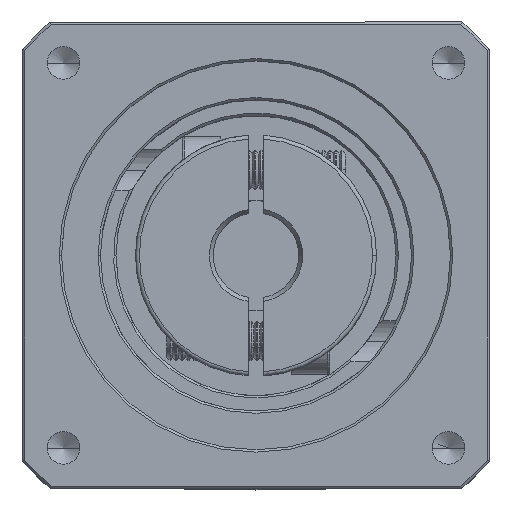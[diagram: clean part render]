
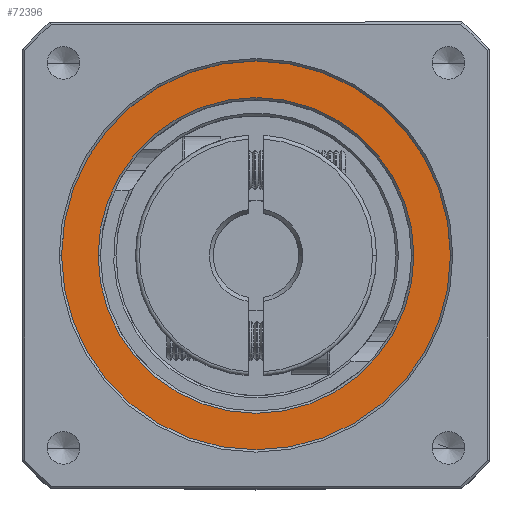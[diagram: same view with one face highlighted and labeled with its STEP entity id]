
A CAD part, top view. The second image highlights one B-rep face of the part: STEP entity #72396.
In plain terms, the highlighted planar face has unit normal (0, 0, 1).
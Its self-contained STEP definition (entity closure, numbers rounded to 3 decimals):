
#1277 = EDGE_CURVE ( 'NONE', #30758, #8004, #4811, .T. ) ;
#2528 = DIRECTION ( 'NONE',  ( 1., 0., 0. ) ) ;
#4811 = CIRCLE ( 'NONE', #76536, 25. ) ;
#5758 = AXIS2_PLACEMENT_3D ( 'NONE', #92671, #47522, #2528 ) ;
#6260 = CARTESIAN_POINT ( 'NONE',  ( -50.253, 17.545, 33.731 ) ) ;
#8004 = VERTEX_POINT ( 'NONE', #21515 ) ;
#8904 = FACE_OUTER_BOUND ( 'NONE', #14991, .T. ) ;
#10290 = CARTESIAN_POINT ( 'NONE',  ( -90.853, 17.545, 33.731 ) ) ;
#12177 = EDGE_LOOP ( 'NONE', ( #93463, #59713 ) ) ;
#14991 = EDGE_LOOP ( 'NONE', ( #56246, #40344 ) ) ;
#17201 = DIRECTION ( 'NONE',  ( 0., 0., -1. ) ) ;
#18452 = CIRCLE ( 'NONE', #49559, 20.3 ) ;
#20888 = VERTEX_POINT ( 'NONE', #6260 ) ;
#21515 = CARTESIAN_POINT ( 'NONE',  ( -45.553, 17.545, 33.731 ) ) ;
#28925 = FACE_BOUND ( 'NONE', #12177, .T. ) ;
#30502 = CARTESIAN_POINT ( 'NONE',  ( -70.553, 17.545, 33.731 ) ) ;
#30758 = VERTEX_POINT ( 'NONE', #58431 ) ;
#33769 = EDGE_CURVE ( 'NONE', #20888, #53912, #18452, .T. ) ;
#38070 = DIRECTION ( 'NONE',  ( 1., 0., 0. ) ) ;
#40344 = ORIENTED_EDGE ( 'NONE', *, *, #1277, .T. ) ;
#41233 = CARTESIAN_POINT ( 'NONE',  ( -70.553, 17.545, 33.731 ) ) ;
#45402 = CIRCLE ( 'NONE', #5758, 20.3 ) ;
#47522 = DIRECTION ( 'NONE',  ( 0., 0., -1. ) ) ;
#48724 = DIRECTION ( 'NONE',  ( 1., 0., 0. ) ) ;
#49559 = AXIS2_PLACEMENT_3D ( 'NONE', #62277, #17201, #69822 ) ;
#51184 = EDGE_CURVE ( 'NONE', #8004, #30758, #79076, .T. ) ;
#51891 = AXIS2_PLACEMENT_3D ( 'NONE', #41233, #93876, #48724 ) ;
#51962 = AXIS2_PLACEMENT_3D ( 'NONE', #30502, #83119, #38070 ) ;
#53912 = VERTEX_POINT ( 'NONE', #10290 ) ;
#56246 = ORIENTED_EDGE ( 'NONE', *, *, #51184, .T. ) ;
#58431 = CARTESIAN_POINT ( 'NONE',  ( -95.553, 17.545, 33.731 ) ) ;
#59385 = EDGE_CURVE ( 'NONE', #53912, #20888, #45402, .T. ) ;
#59713 = ORIENTED_EDGE ( 'NONE', *, *, #59385, .T. ) ;
#60284 = DIRECTION ( 'NONE',  ( 1., 0., 0. ) ) ;
#60600 = DIRECTION ( 'NONE',  ( 0., 0., 1. ) ) ;
#60935 = CARTESIAN_POINT ( 'NONE',  ( -70.553, 17.545, 33.731 ) ) ;
#62277 = CARTESIAN_POINT ( 'NONE',  ( -70.553, 17.545, 33.731 ) ) ;
#63622 = PLANE ( 'NONE',  #51891 ) ;
#69822 = DIRECTION ( 'NONE',  ( 1., 0., 0. ) ) ;
#72396 = ADVANCED_FACE ( 'NONE', ( #28925, #8904 ), #63622, .T. ) ;
#76536 = AXIS2_PLACEMENT_3D ( 'NONE', #60935, #60600, #60284 ) ;
#79076 = CIRCLE ( 'NONE', #51962, 25. ) ;
#83119 = DIRECTION ( 'NONE',  ( 0., 0., 1. ) ) ;
#92671 = CARTESIAN_POINT ( 'NONE',  ( -70.553, 17.545, 33.731 ) ) ;
#93463 = ORIENTED_EDGE ( 'NONE', *, *, #33769, .T. ) ;
#93876 = DIRECTION ( 'NONE',  ( 0., 0., 1. ) ) ;
